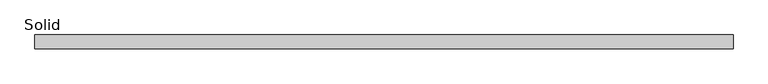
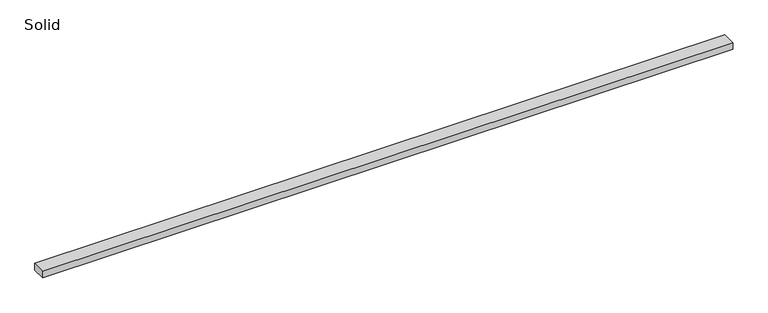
"""IFC4 building model written with IfcOpenShell, lengths in millimetres: sanitary terminal geometry, ZZZ_do not use_PF_ST_grating for showerdrain s_Aco : Solid."""

from ifc_helpers import new_model, si_unit, frame, origin, place, context, project, spatial, polyline, outline, extrude, source, transform, mapped, element, save


def solid_bb1f5994(model_context):
    return source(origin(), model_context, "Body", "SweptSolid", [
        extrude(outline(polyline([(750.0, 15.0), (750.0, -15.0), (-750.0, -15.0), (-750.0, 15.0), (750.0, 15.0)])), frame((0.0, 0.0, -15.0), z_axis=(0.0, 0.0, 1.0), x_axis=(1.0, 0.0, 0.0)), (0.0, 0.0, 1.0), 15.0),
    ])


if __name__ == "__main__":
    model = new_model("IFC4")
    model_context = context("Model", 3, world=origin())
    ifc_project = project(units=[si_unit("LENGTHUNIT", "METRE", prefix="MILLI")], contexts=[model_context])
    site = spatial("IfcSite", under=ifc_project)
    building = spatial("IfcBuilding", under=site)
    placement = place(None, origin())
    solid_shape = solid_bb1f5994(model_context)
    element("IfcSanitaryTerminal", 1, ObjectType="ZZZ_do not use_PF_ST_grating for showerdrain s_Aco : Solid", at=placement, inside=building, context=model_context, shape_type="MappedRepresentation", body=[
        mapped(solid_shape, transform((0.0, 0.0, 0.0), x_axis=(1.0, 0.0, 0.0), y_axis=(0.0, 1.0, 0.0), z_axis=(0.0, 0.0, 1.0))),
    ])
    save(model, "model.ifc")
